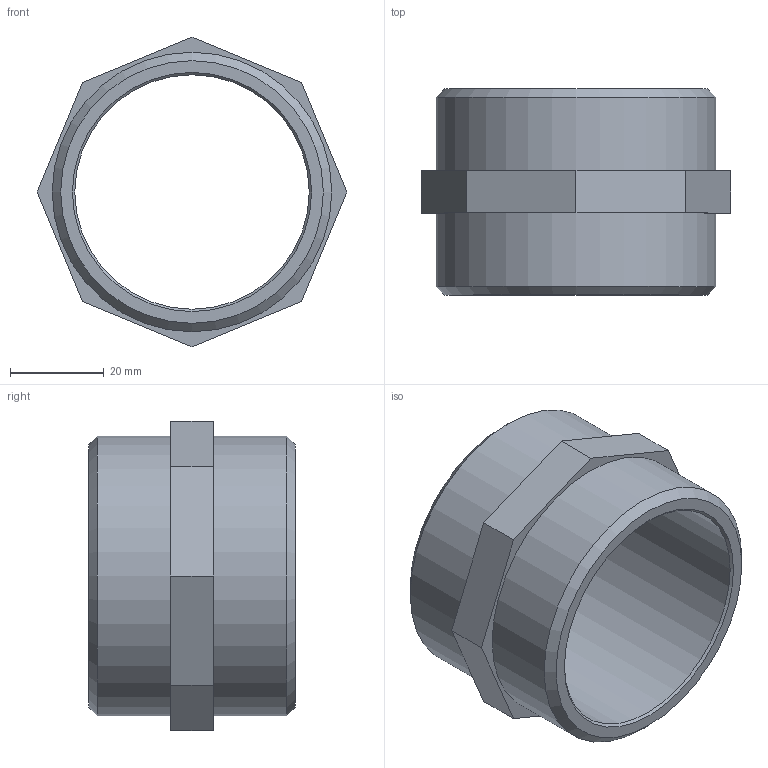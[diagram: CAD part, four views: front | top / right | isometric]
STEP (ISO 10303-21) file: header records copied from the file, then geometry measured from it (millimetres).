
FILE_DESCRIPTION(('STEP AP203'), '1');
FILE_NAME('ÂÐ.753157.018 - VTr.582.N.0009 Íèïïåëü G2', '2024-07-05T12:21:04', ('Boss'), (''), 'C3D Converter', 'C3D Toolkit', '');
FILE_SCHEMA(('CONFIG_CONTROL_DESIGN'));
Length unit declared in the file: millimetre
Products named in the file (1): ВР.753157.018
Bounding box: 66.03 x 44 x 66.03 mm (x, y, z)
Volume: 38406.3 mm3; surface area: 17029.1 mm2
Topology: 1 solids, 1 shells, 19 faces, 41 edges, 26 vertices
Faces by surface type: plane 12, cone 4, cylinder 3
Full cylindrical faces by diameter (mm): 50 x1, 59.614 x2
Entity records: 513 total; most frequent: DIRECTION 84, CARTESIAN_POINT 80, ORIENTED_EDGE 68, EDGE_CURVE 34, AXIS2_PLACEMENT_3D 30, EDGE_LOOP 30, VERTEX_POINT 26, LINE 24
